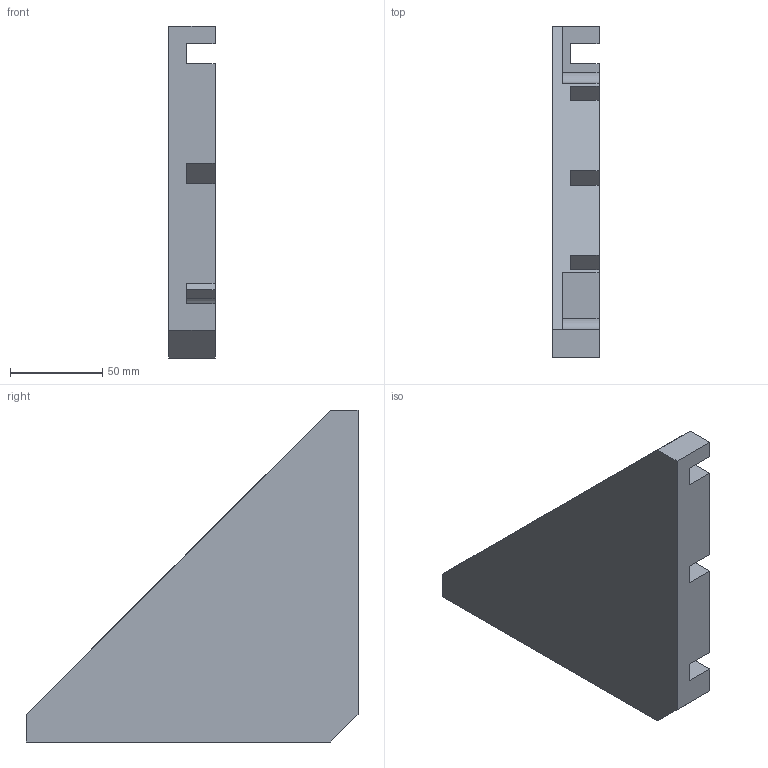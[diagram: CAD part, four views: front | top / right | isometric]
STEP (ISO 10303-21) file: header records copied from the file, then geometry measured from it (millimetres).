
FILE_DESCRIPTION (( 'STEP AP203' ), '1' );
FILE_NAME ('MW904525-Montagewinkel.STEP', '2013-08-19T16:02:59', ( 'MM01' ), ( '' ), 'SwSTEP 2.0', 'SolidWorks 2012', '' );
FILE_SCHEMA (( 'CONFIG_CONTROL_DESIGN' ));
Length unit declared in the file: millimetre
Products named in the file (1): MW904525-Montagewinkel
Bounding box: 25 x 180 x 180 mm (x, y, z)
Volume: 223577.1 mm3; surface area: 63197 mm2
Topology: 1 solids, 1 shells, 58 faces, 168 edges, 112 vertices
Faces by surface type: plane 53, cylinder 5
Entity records: 1959 total; most frequent: CARTESIAN_POINT 339, ORIENTED_EDGE 336, DIRECTION 296, EDGE_CURVE 168, VECTOR 158, LINE 158, VERTEX_POINT 112, AXIS2_PLACEMENT_3D 69
